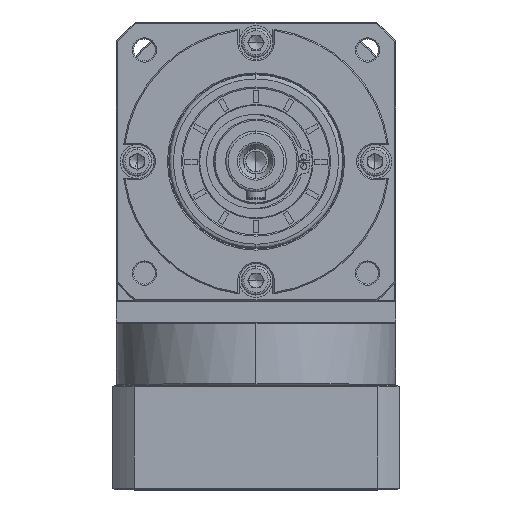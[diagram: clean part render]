
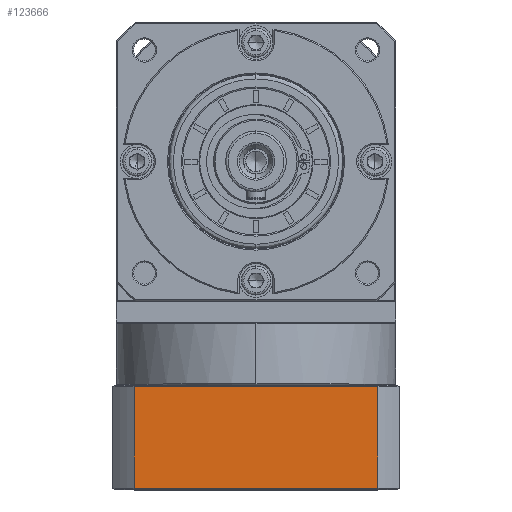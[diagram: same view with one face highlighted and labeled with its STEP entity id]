
A CAD part, top view. The second image highlights one B-rep face of the part: STEP entity #123666.
In plain terms, the highlighted planar face has unit normal (0, 0, 1).
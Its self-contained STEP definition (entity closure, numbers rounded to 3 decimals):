
#1332 = CARTESIAN_POINT ( 'NONE',  ( -188.721, -155.322, 31.375 ) ) ;
#6642 = EDGE_CURVE ( 'NONE', #36236, #22682, #8788, .T. ) ;
#8788 = LINE ( 'NONE', #21236, #31836 ) ;
#14074 = AXIS2_PLACEMENT_3D ( 'NONE', #100943, #20622, #114467 ) ;
#14388 = CARTESIAN_POINT ( 'NONE',  ( -289.225, -113.322, 31.375 ) ) ;
#15987 = ORIENTED_EDGE ( 'NONE', *, *, #6642, .F. ) ;
#19658 = VERTEX_POINT ( 'NONE', #14388 ) ;
#20622 = DIRECTION ( 'NONE',  ( 0., 0., -1. ) ) ;
#21236 = CARTESIAN_POINT ( 'NONE',  ( -188.721, 108.573, 31.375 ) ) ;
#22682 = VERTEX_POINT ( 'NONE', #1332 ) ;
#23710 = CARTESIAN_POINT ( 'NONE',  ( -297.973, -113.322, 31.375 ) ) ;
#27992 = CARTESIAN_POINT ( 'NONE',  ( -289.225, -155.822, 31.375 ) ) ;
#31309 = FACE_OUTER_BOUND ( 'NONE', #53430, .T. ) ;
#31836 = VECTOR ( 'NONE', #101579, 1000. ) ;
#32939 = PLANE ( 'NONE',  #14074 ) ;
#36236 = VERTEX_POINT ( 'NONE', #60562 ) ;
#45128 = DIRECTION ( 'NONE',  ( -1., 0., 0. ) ) ;
#46269 = CARTESIAN_POINT ( 'NONE',  ( -297.973, -155.322, 31.375 ) ) ;
#53430 = EDGE_LOOP ( 'NONE', ( #15987, #98757, #84501, #160762 ) ) ;
#56585 = LINE ( 'NONE', #46269, #88020 ) ;
#60562 = CARTESIAN_POINT ( 'NONE',  ( -188.721, -113.322, 31.375 ) ) ;
#62145 = LINE ( 'NONE', #23710, #164812 ) ;
#63708 = EDGE_CURVE ( 'NONE', #96030, #19658, #157055, .T. ) ;
#84501 = ORIENTED_EDGE ( 'NONE', *, *, #63708, .F. ) ;
#85826 = VECTOR ( 'NONE', #94823, 1000. ) ;
#88020 = VECTOR ( 'NONE', #45128, 1000. ) ;
#94823 = DIRECTION ( 'NONE',  ( 0., 1., 0. ) ) ;
#96030 = VERTEX_POINT ( 'NONE', #99977 ) ;
#98757 = ORIENTED_EDGE ( 'NONE', *, *, #102748, .F. ) ;
#99977 = CARTESIAN_POINT ( 'NONE',  ( -289.225, -155.322, 31.375 ) ) ;
#100943 = CARTESIAN_POINT ( 'NONE',  ( -297.973, -155.822, 31.375 ) ) ;
#101579 = DIRECTION ( 'NONE',  ( 0., -1., 0. ) ) ;
#102748 = EDGE_CURVE ( 'NONE', #19658, #36236, #62145, .T. ) ;
#114467 = DIRECTION ( 'NONE',  ( -1., 0., 0. ) ) ;
#123666 = ADVANCED_FACE ( 'NONE', ( #31309 ), #32939, .F. ) ;
#157055 = LINE ( 'NONE', #27992, #85826 ) ;
#157882 = DIRECTION ( 'NONE',  ( 1., 0., 0. ) ) ;
#158825 = EDGE_CURVE ( 'NONE', #22682, #96030, #56585, .T. ) ;
#160762 = ORIENTED_EDGE ( 'NONE', *, *, #158825, .F. ) ;
#164812 = VECTOR ( 'NONE', #157882, 1000. ) ;
